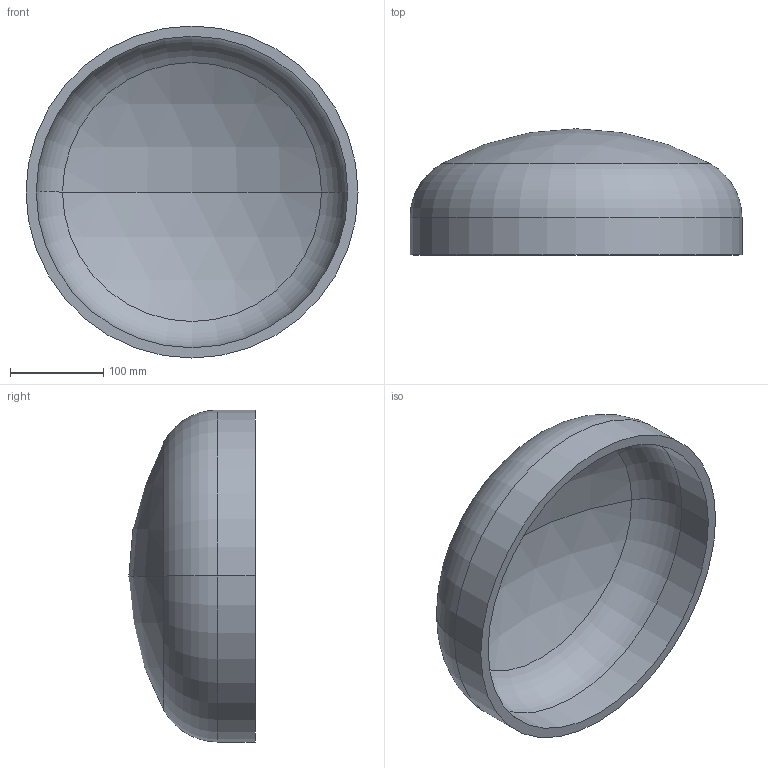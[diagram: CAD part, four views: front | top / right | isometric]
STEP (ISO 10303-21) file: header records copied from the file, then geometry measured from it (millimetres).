
FILE_DESCRIPTION (( 'STEP AP203' ), '1' );
FILE_NAME ('DIN 28013 Korbbogenform_-_Boden DIN 28013 - 355,6 x 40 - I - s=11.step', '2016-07-01T07:46:22', ( '' ), ( '' ), 'SwSTEP 2.0', 'SolidWorks 2013', '' );
FILE_SCHEMA (( 'CONFIG_CONTROL_DESIGN' ));
Length unit declared in the file: millimetre
Products named in the file (1): DIN 28013 Korbbogenform_-_Boden DIN 28013 - 355,6 x 40 - I - s=11
Bounding box: 355.6 x 135.15 x 355.6 mm (x, y, z)
Volume: 1930947.8 mm3; surface area: 363243.3 mm2
Topology: 1 solids, 1 shells, 13 faces, 24 edges, 14 vertices
Faces by surface type: torus 4, cylinder 4, sphere 4, plane 1
Entity records: 407 total; most frequent: DIRECTION 72, CARTESIAN_POINT 52, ORIENTED_EDGE 48, AXIS2_PLACEMENT_3D 34, EDGE_CURVE 24, CIRCLE 20, EDGE_LOOP 14, VERTEX_POINT 14
